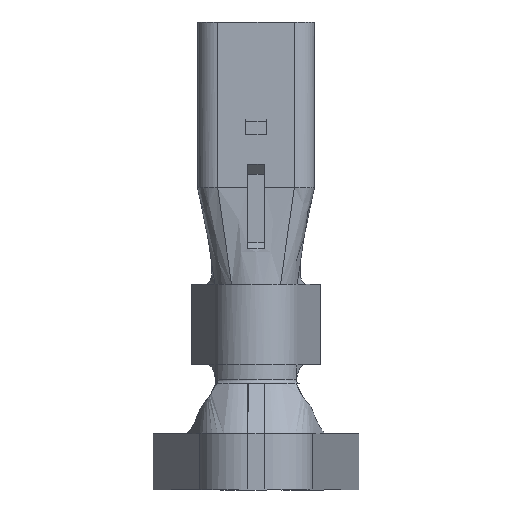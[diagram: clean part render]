
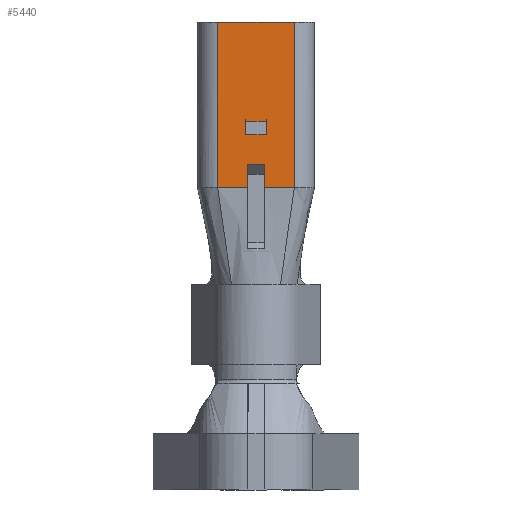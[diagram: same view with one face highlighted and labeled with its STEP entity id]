
A CAD part, front view. The second image highlights one B-rep face of the part: STEP entity #5440.
In plain terms, the highlighted planar face has unit normal (0, -1, 0).
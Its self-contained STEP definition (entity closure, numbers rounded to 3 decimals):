
#1 = FACE_BOUND ( 'NONE', #6298, .T. ) ;
#48 = VERTEX_POINT ( 'NONE', #3873 ) ;
#202 = VERTEX_POINT ( 'NONE', #4782 ) ;
#278 = DIRECTION ( 'NONE',  ( -1., 0., 0. ) ) ;
#347 = VECTOR ( 'NONE', #3576, 1000. ) ;
#442 = EDGE_CURVE ( 'NONE', #4933, #5142, #7691, .T. ) ;
#460 = CARTESIAN_POINT ( 'NONE',  ( -80.32, -19.952, 2.9 ) ) ;
#509 = LINE ( 'NONE', #5284, #6921 ) ;
#513 = ORIENTED_EDGE ( 'NONE', *, *, #2445, .T. ) ;
#625 = VERTEX_POINT ( 'NONE', #2466 ) ;
#701 = VECTOR ( 'NONE', #1121, 1000. ) ;
#755 = EDGE_CURVE ( 'NONE', #5189, #202, #1273, .T. ) ;
#832 = CARTESIAN_POINT ( 'NONE',  ( -80.32, -19.952, 2.9 ) ) ;
#1008 = ORIENTED_EDGE ( 'NONE', *, *, #5032, .T. ) ;
#1019 = CARTESIAN_POINT ( 'NONE',  ( -80.32, -19.952, 0.849 ) ) ;
#1024 = CARTESIAN_POINT ( 'NONE',  ( -79.745, -19.952, 0.849 ) ) ;
#1030 = LINE ( 'NONE', #2147, #1077 ) ;
#1077 = VECTOR ( 'NONE', #4028, 1000. ) ;
#1112 = CARTESIAN_POINT ( 'NONE',  ( -79.97, -19.952, 1.668 ) ) ;
#1121 = DIRECTION ( 'NONE',  ( 0., 0., -1. ) ) ;
#1173 = FACE_OUTER_BOUND ( 'NONE', #6751, .T. ) ;
#1252 = VECTOR ( 'NONE', #2743, 1000. ) ;
#1273 = LINE ( 'NONE', #2437, #7072 ) ;
#1332 = PLANE ( 'NONE',  #2429 ) ;
#1545 = DIRECTION ( 'NONE',  ( -1., 0., 0. ) ) ;
#1643 = ORIENTED_EDGE ( 'NONE', *, *, #6018, .T. ) ;
#1743 = DIRECTION ( 'NONE',  ( 0., 0., 1. ) ) ;
#1797 = VECTOR ( 'NONE', #3017, 1000. ) ;
#1970 = VECTOR ( 'NONE', #6847, 1000. ) ;
#1971 = ORIENTED_EDGE ( 'NONE', *, *, #7697, .T. ) ;
#2008 = LINE ( 'NONE', #6959, #3339 ) ;
#2147 = CARTESIAN_POINT ( 'NONE',  ( -79.97, -19.952, 2.9 ) ) ;
#2416 = VERTEX_POINT ( 'NONE', #3757 ) ;
#2429 = AXIS2_PLACEMENT_3D ( 'NONE', #832, #6228, #4980 ) ;
#2437 = CARTESIAN_POINT ( 'NONE',  ( -79.37, -19.952, 2.9 ) ) ;
#2445 = EDGE_CURVE ( 'NONE', #3274, #2416, #7093, .T. ) ;
#2466 = CARTESIAN_POINT ( 'NONE',  ( -79.72, -19.952, 1.668 ) ) ;
#2491 = CARTESIAN_POINT ( 'NONE',  ( -79.72, -19.952, 2.9 ) ) ;
#2531 = LINE ( 'NONE', #2491, #1797 ) ;
#2554 = VERTEX_POINT ( 'NONE', #1112 ) ;
#2614 = VERTEX_POINT ( 'NONE', #460 ) ;
#2704 = EDGE_CURVE ( 'NONE', #2614, #4933, #509, .T. ) ;
#2743 = DIRECTION ( 'NONE',  ( 1., 0., 0. ) ) ;
#2838 = EDGE_CURVE ( 'NONE', #7198, #48, #4497, .T. ) ;
#3017 = DIRECTION ( 'NONE',  ( 0., 0., -1. ) ) ;
#3102 = VECTOR ( 'NONE', #4939, 1000. ) ;
#3207 = CARTESIAN_POINT ( 'NONE',  ( -80.32, -19.952, 0.849 ) ) ;
#3274 = VERTEX_POINT ( 'NONE', #6683 ) ;
#3339 = VECTOR ( 'NONE', #278, 1000. ) ;
#3508 = LINE ( 'NONE', #4806, #701 ) ;
#3576 = DIRECTION ( 'NONE',  ( 1., 0., 0. ) ) ;
#3713 = ORIENTED_EDGE ( 'NONE', *, *, #5620, .T. ) ;
#3757 = CARTESIAN_POINT ( 'NONE',  ( -79.97, -19.952, 1.5 ) ) ;
#3873 = CARTESIAN_POINT ( 'NONE',  ( -79.745, -19.952, 1.139 ) ) ;
#3892 = CARTESIAN_POINT ( 'NONE',  ( -79.945, -19.952, 0.849 ) ) ;
#4028 = DIRECTION ( 'NONE',  ( 0., 0., 1. ) ) ;
#4373 = VERTEX_POINT ( 'NONE', #1024 ) ;
#4497 = LINE ( 'NONE', #5135, #1252 ) ;
#4725 = DIRECTION ( 'NONE',  ( 0., 0., -1. ) ) ;
#4782 = CARTESIAN_POINT ( 'NONE',  ( -79.37, -19.952, 2.9 ) ) ;
#4806 = CARTESIAN_POINT ( 'NONE',  ( -79.745, -19.952, 2.9 ) ) ;
#4933 = VERTEX_POINT ( 'NONE', #7774 ) ;
#4939 = DIRECTION ( 'NONE',  ( 0., 0., 1. ) ) ;
#4980 = DIRECTION ( 'NONE',  ( 0., 0., -1. ) ) ;
#5014 = ORIENTED_EDGE ( 'NONE', *, *, #7327, .T. ) ;
#5032 = EDGE_CURVE ( 'NONE', #2554, #625, #7860, .T. ) ;
#5070 = LINE ( 'NONE', #3207, #1970 ) ;
#5135 = CARTESIAN_POINT ( 'NONE',  ( -80.32, -19.952, 1.139 ) ) ;
#5142 = VERTEX_POINT ( 'NONE', #3892 ) ;
#5189 = VERTEX_POINT ( 'NONE', #6595 ) ;
#5284 = CARTESIAN_POINT ( 'NONE',  ( -80.32, -19.952, 2.9 ) ) ;
#5440 = ADVANCED_FACE ( 'NONE', ( #1173, #1 ), #1332, .T. ) ;
#5539 = LINE ( 'NONE', #8003, #3102 ) ;
#5620 = EDGE_CURVE ( 'NONE', #202, #2614, #2008, .T. ) ;
#5840 = CARTESIAN_POINT ( 'NONE',  ( -80.32, -19.952, 1.5 ) ) ;
#5861 = EDGE_CURVE ( 'NONE', #5142, #7198, #5539, .T. ) ;
#5966 = ORIENTED_EDGE ( 'NONE', *, *, #442, .T. ) ;
#6018 = EDGE_CURVE ( 'NONE', #625, #3274, #2531, .T. ) ;
#6228 = DIRECTION ( 'NONE',  ( 0., -1., 0. ) ) ;
#6298 = EDGE_LOOP ( 'NONE', ( #1008, #1643, #513, #1971 ) ) ;
#6541 = VECTOR ( 'NONE', #7652, 1000. ) ;
#6595 = CARTESIAN_POINT ( 'NONE',  ( -79.37, -19.952, 0.849 ) ) ;
#6683 = CARTESIAN_POINT ( 'NONE',  ( -79.72, -19.952, 1.5 ) ) ;
#6751 = EDGE_LOOP ( 'NONE', ( #6761, #3713, #7109, #5966, #6762, #7897, #6951, #5014 ) ) ;
#6761 = ORIENTED_EDGE ( 'NONE', *, *, #755, .T. ) ;
#6762 = ORIENTED_EDGE ( 'NONE', *, *, #5861, .T. ) ;
#6806 = EDGE_CURVE ( 'NONE', #48, #4373, #3508, .T. ) ;
#6847 = DIRECTION ( 'NONE',  ( 1., 0., 0. ) ) ;
#6921 = VECTOR ( 'NONE', #4725, 1000. ) ;
#6951 = ORIENTED_EDGE ( 'NONE', *, *, #6806, .T. ) ;
#6959 = CARTESIAN_POINT ( 'NONE',  ( -80.32, -19.952, 2.9 ) ) ;
#7044 = VECTOR ( 'NONE', #1545, 1000. ) ;
#7053 = CARTESIAN_POINT ( 'NONE',  ( -79.945, -19.952, 1.139 ) ) ;
#7072 = VECTOR ( 'NONE', #1743, 1000. ) ;
#7093 = LINE ( 'NONE', #5840, #7044 ) ;
#7109 = ORIENTED_EDGE ( 'NONE', *, *, #2704, .T. ) ;
#7198 = VERTEX_POINT ( 'NONE', #7053 ) ;
#7246 = CARTESIAN_POINT ( 'NONE',  ( -80.32, -19.952, 1.668 ) ) ;
#7327 = EDGE_CURVE ( 'NONE', #4373, #5189, #5070, .T. ) ;
#7652 = DIRECTION ( 'NONE',  ( 1., 0., 0. ) ) ;
#7691 = LINE ( 'NONE', #1019, #6541 ) ;
#7697 = EDGE_CURVE ( 'NONE', #2416, #2554, #1030, .T. ) ;
#7774 = CARTESIAN_POINT ( 'NONE',  ( -80.32, -19.952, 0.849 ) ) ;
#7860 = LINE ( 'NONE', #7246, #347 ) ;
#7897 = ORIENTED_EDGE ( 'NONE', *, *, #2838, .T. ) ;
#8003 = CARTESIAN_POINT ( 'NONE',  ( -79.945, -19.952, 2.9 ) ) ;
